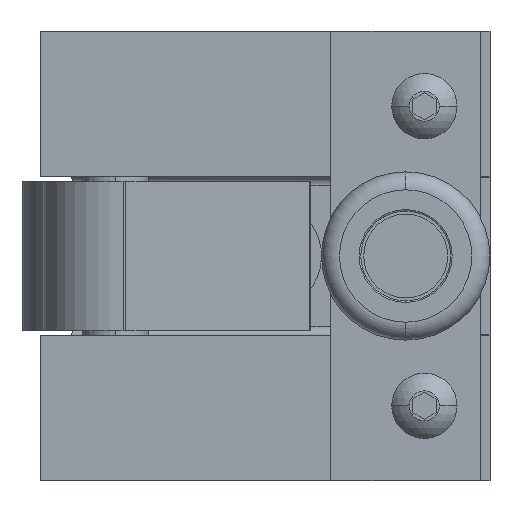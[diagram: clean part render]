
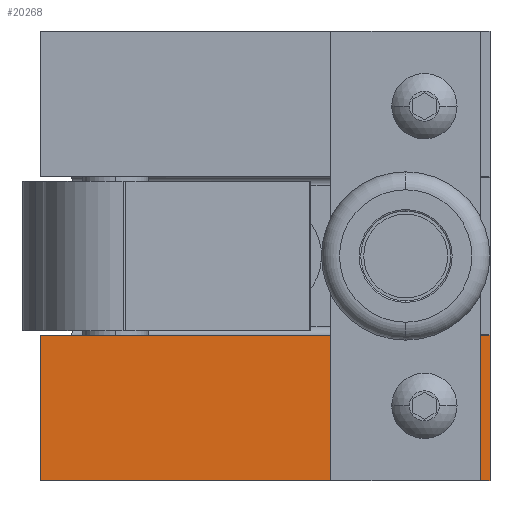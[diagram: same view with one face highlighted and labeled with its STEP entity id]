
A CAD part, left-side view. The second image highlights one B-rep face of the part: STEP entity #20268.
In plain terms, the highlighted planar face has unit normal (-1, 0, 0).
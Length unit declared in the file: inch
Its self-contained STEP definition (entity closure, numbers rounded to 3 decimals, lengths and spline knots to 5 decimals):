
#6536 = CARTESIAN_POINT ( 'NONE',  ( 5.66064, 5.77171, -2.03 ) ) ;
#6537 = DIRECTION ( 'NONE',  ( 0., -1., 0. ) ) ;
#6538 = VECTOR ( 'NONE', #6537, 39.37008 ) ;
#6540 = CARTESIAN_POINT ( 'NONE',  ( 5.66064, 2.77171, -2.03 ) ) ;
#6541 = LINE ( 'NONE', #6540, #6538 ) ;
#6614 = DIRECTION ( 'NONE',  ( 0., -1., 0. ) ) ;
#6615 = VECTOR ( 'NONE', #6614, 39.37008 ) ;
#6616 = CARTESIAN_POINT ( 'NONE',  ( 5.66064, 2.77171, -3. ) ) ;
#6617 = LINE ( 'NONE', #6616, #6615 ) ;
#6618 = CARTESIAN_POINT ( 'NONE',  ( 5.66064, 5.77171, -3. ) ) ;
#6619 = DIRECTION ( 'NONE',  ( 0., 0., 1. ) ) ;
#6620 = VECTOR ( 'NONE', #6619, 39.37008 ) ;
#6621 = CARTESIAN_POINT ( 'NONE',  ( 5.66064, 5.77171, -3. ) ) ;
#6622 = LINE ( 'NONE', #6621, #6620 ) ;
#6624 = CARTESIAN_POINT ( 'NONE',  ( 5.66064, 2.77171, -3. ) ) ;
#6625 = DIRECTION ( 'NONE',  ( 0., 0., 1. ) ) ;
#6627 = VECTOR ( 'NONE', #6625, 39.37008 ) ;
#6628 = CARTESIAN_POINT ( 'NONE',  ( 5.66064, 2.77171, -3. ) ) ;
#6629 = LINE ( 'NONE', #6628, #6627 ) ;
#6821 = CARTESIAN_POINT ( 'NONE',  ( 5.66064, 2.77171, -2.03 ) ) ;
#7170 = PLANE ( 'NONE',  #7172 ) ;
#7171 = CARTESIAN_POINT ( 'NONE',  ( 5.66064, 2.77171, -3. ) ) ;
#7172 = AXIS2_PLACEMENT_3D ( 'NONE', #7171, #7328, #7327 ) ;
#7173 = FACE_OUTER_BOUND ( 'NONE', #20073, .T. ) ;
#7175 = FACE_BOUND ( 'NONE', #20217, .T. ) ;
#7316 = DIRECTION ( 'NONE',  ( 0., 0., 1. ) ) ;
#7318 = DIRECTION ( 'NONE',  ( -1., 0., 0. ) ) ;
#7320 = AXIS2_PLACEMENT_3D ( 'NONE', #7329, #7318, #7316 ) ;
#7321 = CIRCLE ( 'NONE', #7320, 0.125 ) ;
#7327 = DIRECTION ( 'NONE',  ( 0., 0., 1. ) ) ;
#7328 = DIRECTION ( 'NONE',  ( -1., 0., 0. ) ) ;
#7329 = CARTESIAN_POINT ( 'NONE',  ( 5.66064, 3.20971, -2.5 ) ) ;
#16404 = CARTESIAN_POINT ( 'NONE',  ( 5.66064, 3.20971, -2.375 ) ) ;
#16905 = DIRECTION ( 'NONE',  ( -1., 0., 0. ) ) ;
#16906 = CARTESIAN_POINT ( 'NONE',  ( 5.66064, 3.20971, -2.5 ) ) ;
#16907 = AXIS2_PLACEMENT_3D ( 'NONE', #16906, #16905, #16930 ) ;
#16908 = CIRCLE ( 'NONE', #16907, 0.125 ) ;
#16930 = DIRECTION ( 'NONE',  ( 0., 0., 1. ) ) ;
#16957 = CARTESIAN_POINT ( 'NONE',  ( 5.66064, 3.20971, -2.625 ) ) ;
#18879 = VERTEX_POINT ( 'NONE', #16404 ) ;
#19055 = VERTEX_POINT ( 'NONE', #16957 ) ;
#19090 = EDGE_CURVE ( 'NONE', #19055, #18879, #16908, .T. ) ;
#20068 = EDGE_CURVE ( 'NONE', #20069, #20219, #6629, .T. ) ;
#20069 = VERTEX_POINT ( 'NONE', #6624 ) ;
#20072 = ORIENTED_EDGE ( 'NONE', *, *, #19090, .F. ) ;
#20073 = EDGE_LOOP ( 'NONE', ( #20074, #20077, #20080, #20164 ) ) ;
#20074 = ORIENTED_EDGE ( 'NONE', *, *, #20075, .F. ) ;
#20075 = EDGE_CURVE ( 'NONE', #20076, #20219, #6541, .T. ) ;
#20076 = VERTEX_POINT ( 'NONE', #6536 ) ;
#20077 = ORIENTED_EDGE ( 'NONE', *, *, #20078, .F. ) ;
#20078 = EDGE_CURVE ( 'NONE', #20079, #20076, #6622, .T. ) ;
#20079 = VERTEX_POINT ( 'NONE', #6618 ) ;
#20080 = ORIENTED_EDGE ( 'NONE', *, *, #20081, .T. ) ;
#20081 = EDGE_CURVE ( 'NONE', #20079, #20069, #6617, .T. ) ;
#20164 = ORIENTED_EDGE ( 'NONE', *, *, #20068, .T. ) ;
#20217 = EDGE_LOOP ( 'NONE', ( #20269, #20072 ) ) ;
#20219 = VERTEX_POINT ( 'NONE', #6821 ) ;
#20268 = ADVANCED_FACE ( 'NONE', ( #7175, #7173 ), #7170, .T. ) ;
#20269 = ORIENTED_EDGE ( 'NONE', *, *, #20270, .F. ) ;
#20270 = EDGE_CURVE ( 'NONE', #18879, #19055, #7321, .T. ) ;
